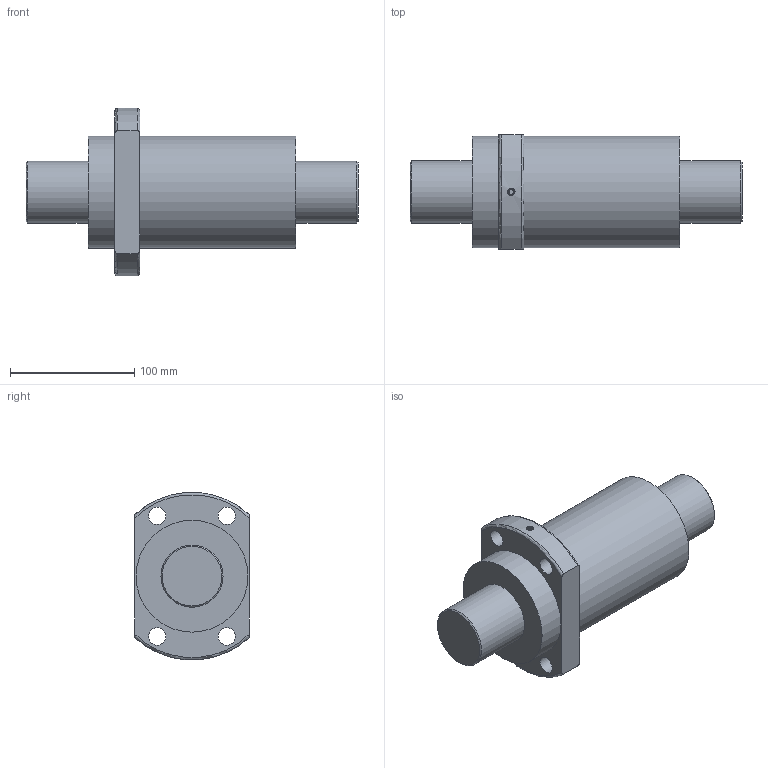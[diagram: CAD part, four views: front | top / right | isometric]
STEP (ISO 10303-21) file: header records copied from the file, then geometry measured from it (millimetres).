
FILE_DESCRIPTION(/* description */ ('Unknown','CAx-IF Rec.Pracs.---Representation and Presentation of Product Manufacturing Information (PMI)---4.0---2014-10-13','CAx-IF Rec.Pracs.---3D Tessellated Geometry---0.4---2014-09-14','2;1'),/* implementation_level */ '2;1');
FILE_NAME(/* name */ 'SFY5050-5.6',/* time_stamp */ '2020-12-06T18:42:51+08:00',/* author */ ('Unknown'),/* organization */ ('Unknown'),/* preprocessor_version */ 'ST-DEVELOPER v16.7',/* originating_system */ 'Solid Edge',/* authorisation */ 'Unknown');
FILE_SCHEMA (('AP242_MANAGED_MODEL_BASED_3D_ENGINEERING_MIM_LF { 1 0 10303 442 1 1 4 }'));
Length unit declared in the file: millimetre
Products named in the file (1): SFY5050-5
Bounding box: 267 x 92 x 134.77 mm (x, y, z)
Volume: 1345657.1 mm3; surface area: 90390.1 mm2
Topology: 1 solids, 1 shells, 32 faces, 78 edges, 53 vertices
Faces by surface type: cylinder 13, plane 10, torus 4, cone 3, bspline 2
Full cylindrical faces by diameter (mm): 4 x1, 14 x4, 50 x2, 90 x2
Entity records: 3223 total; most frequent: CARTESIAN_POINT 2501, DIRECTION 138, ORIENTED_EDGE 114, AXIS2_PLACEMENT_3D 66, EDGE_CURVE 57, EDGE_LOOP 57, FACE_BOUND 57, VERTEX_POINT 44
